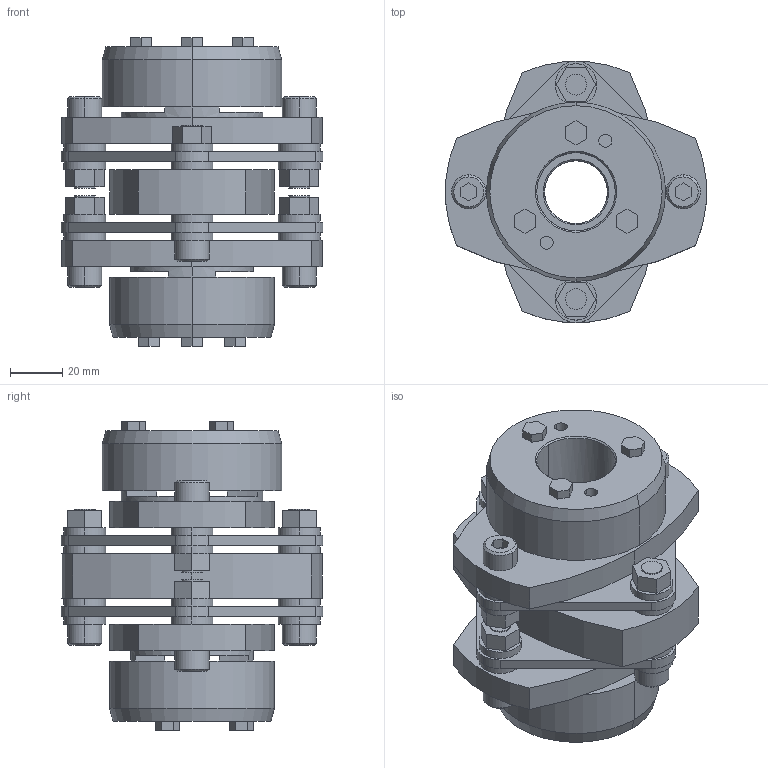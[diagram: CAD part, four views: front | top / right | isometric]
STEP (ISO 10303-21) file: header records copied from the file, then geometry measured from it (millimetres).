
FILE_DESCRIPTION((''),'2;1');
FILE_NAME('LCD-100T7-24×30.stp','2015-11-02T07:21:53',(''),(''),'AutoCAD STEP 2000i','AutoCAD 2000i',', , ');
FILE_SCHEMA(('CONFIG_CONTROL_DESIGN'));
Length unit declared in the file: millimetre
Products named in the file (8): LCD-100T7-25×30; 忣兜1; LC100T7-T030; LC100T7-T025-1; LC100T7-T025; LC100T7-T022-1; LC100T7-T022; LCD100-ITA
Assembly tree (7 placements, depth 2):
  LCD-100T7-25×30
    忣兜1
    LC100T7-T030
    LC100T7-T025-1
    LC100T7-T025
    LC100T7-T022-1
    LC100T7-T022
    LCD100-ITA
Bounding box: 100 x 99.93 x 118 mm (x, y, z)
Volume: 355886.6 mm3; surface area: 90200.8 mm2
Topology: 1 solids, 1 shells, 320 faces, 780 edges, 512 vertices
Faces by surface type: plane 176, cylinder 120, cone 24
Entity records: 9677 total; most frequent: DIRECTION 1716, CARTESIAN_POINT 1620, ORIENTED_EDGE 1560, EDGE_CURVE 780, AXIS2_PLACEMENT_3D 608, VERTEX_POINT 512, VECTOR 500, LINE 500
